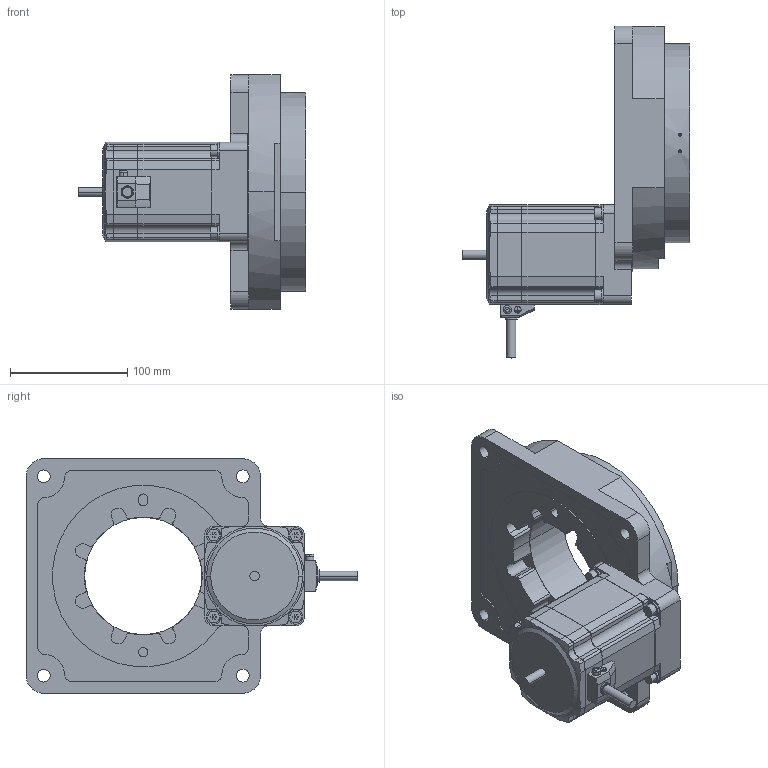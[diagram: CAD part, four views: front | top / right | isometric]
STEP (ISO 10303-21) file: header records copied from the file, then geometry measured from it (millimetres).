
FILE_DESCRIPTION( ( '' ), '1' );
FILE_NAME( 'Z:/14ＣＡＤ/01_CAD業務フォルダ/12_STEP書き出し/05_STEPファイル名の変更作業/02_ファイル名変換の作業場/■手動で書き出し_DG2/DG200R-ARBA-1(1)→D2857-B.stp', '2013-01-08T01:02:19', ( '' ), ( '' ), ' ', ' ', ' ' );
FILE_SCHEMA( ( 'CONFIG_CONTROL_DESIGN' ) );
Length unit declared in the file: millimetre
Products named in the file (2): 1; 2
Bounding box: 194.5 x 283.15 x 200 mm (x, y, z)
Volume: 2224642.1 mm3; surface area: 218119.4 mm2
Topology: 2 solids, 2 shells, 622 faces, 1707 edges, 1111 vertices
Faces by surface type: plane 335, cylinder 231, cone 46, torus 10
Entity records: 20034 total; most frequent: CARTESIAN_POINT 3874, ORIENTED_EDGE 3374, DIRECTION 3370, EDGE_CURVE 1687, LINE 1124, VECTOR 1124, AXIS2_PLACEMENT_3D 1123, VERTEX_POINT 1111
